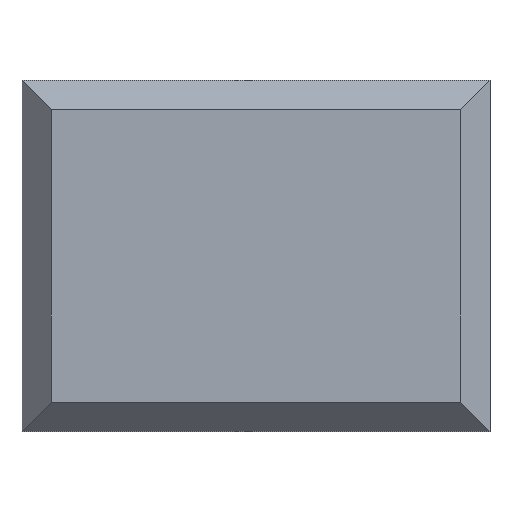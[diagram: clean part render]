
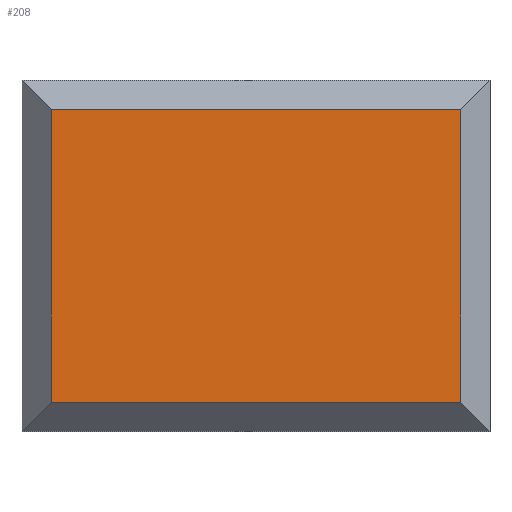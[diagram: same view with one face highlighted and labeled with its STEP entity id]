
A CAD part, top view. The second image highlights one B-rep face of the part: STEP entity #208.
In plain terms, the highlighted planar face has unit normal (0, 0, 1).
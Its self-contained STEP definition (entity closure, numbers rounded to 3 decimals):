
#93 = VERTEX_POINT('',#94);
#94 = CARTESIAN_POINT('',(0.5,0.5,0.));
#102 = VERTEX_POINT('',#103);
#103 = CARTESIAN_POINT('',(0.5,5.5,0.));
#109 = EDGE_CURVE('',#93,#102,#110,.T.);
#110 = LINE('',#111,#112);
#111 = CARTESIAN_POINT('',(0.5,0.,0.));
#112 = VECTOR('',#113,1.);
#113 = DIRECTION('',(-0.,1.,0.));
#191 = VERTEX_POINT('',#192);
#192 = CARTESIAN_POINT('',(7.5,0.5,0.));
#198 = EDGE_CURVE('',#93,#191,#199,.T.);
#199 = LINE('',#200,#201);
#200 = CARTESIAN_POINT('',(0.,0.5,0.));
#201 = VECTOR('',#202,1.);
#202 = DIRECTION('',(1.,0.,-0.));
#208 = ADVANCED_FACE('',(#209),#227,.T.);
#209 = FACE_BOUND('',#210,.T.);
#210 = EDGE_LOOP('',(#211,#212,#213,#221));
#211 = ORIENTED_EDGE('',*,*,#109,.F.);
#212 = ORIENTED_EDGE('',*,*,#198,.T.);
#213 = ORIENTED_EDGE('',*,*,#214,.T.);
#214 = EDGE_CURVE('',#191,#215,#217,.T.);
#215 = VERTEX_POINT('',#216);
#216 = CARTESIAN_POINT('',(7.5,5.5,0.));
#217 = LINE('',#218,#219);
#218 = CARTESIAN_POINT('',(7.5,0.,0.));
#219 = VECTOR('',#220,1.);
#220 = DIRECTION('',(-0.,1.,0.));
#221 = ORIENTED_EDGE('',*,*,#222,.F.);
#222 = EDGE_CURVE('',#102,#215,#223,.T.);
#223 = LINE('',#224,#225);
#224 = CARTESIAN_POINT('',(0.,5.5,0.));
#225 = VECTOR('',#226,1.);
#226 = DIRECTION('',(1.,0.,-0.));
#227 = PLANE('',#228);
#228 = AXIS2_PLACEMENT_3D('',#229,#230,#231);
#229 = CARTESIAN_POINT('',(0.,0.,0.));
#230 = DIRECTION('',(0.,0.,1.));
#231 = DIRECTION('',(1.,0.,-0.));
